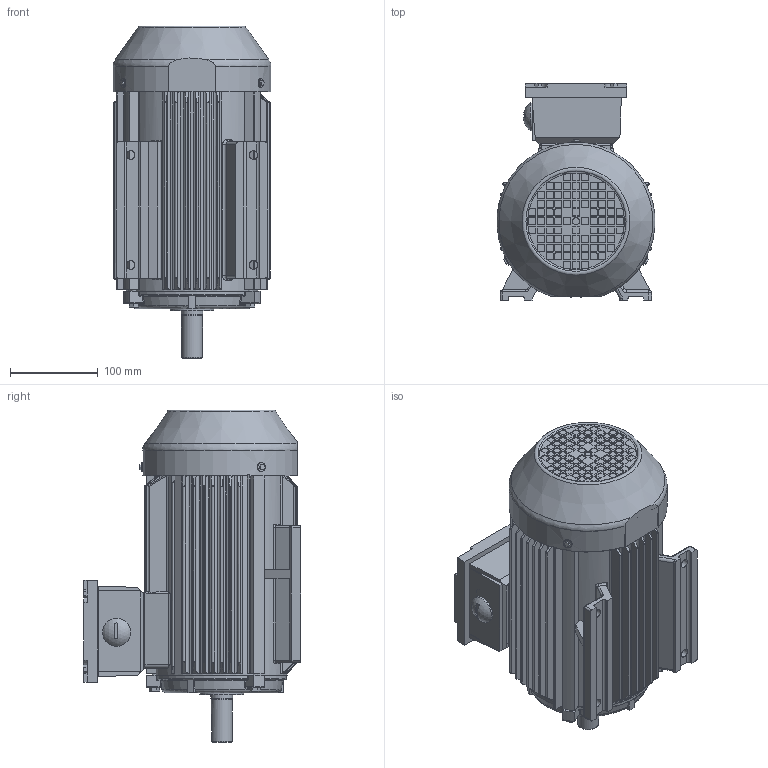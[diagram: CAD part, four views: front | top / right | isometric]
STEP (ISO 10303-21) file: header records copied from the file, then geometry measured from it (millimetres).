
FILE_DESCRIPTION(/* description */ (''),/* implementation_level */ '2;1');
FILE_NAME(/* name */ 'C:/Users/luigi_zhang/Desktop/temp/New folder/TE3-90Lú¿GXú⌐B3╔╧.step',/* time_stamp */ '2020-06-22T09:01:39+10:00',/* author */ (''),/* organization */ (''),/* preprocessor_version */ 'ST-DEVELOPER v18.1',/* originating_system */ 'Autodesk Translation Framework v9.3.0.1241',/* authorisation */ '');
FILE_SCHEMA (('AUTOMOTIVE_DESIGN { 1 0 10303 214 3 1 1 }'));
Length unit declared in the file: millimetre
Products named in the file (1): (Unsaved)
Bounding box: 179.69 x 247.5 x 378 mm (x, y, z)
Volume: 3184593.6 mm3; surface area: 716886.6 mm2
Topology: 6 solids, 7 shells, 1475 faces, 3856 edges, 2517 vertices
Faces by surface type: plane 758, cylinder 570, bspline 81, torus 38, cone 15, sphere 13
Full cylindrical faces by diameter (mm): 5 x2, 6.8 x1, 8 x1, 10 x10, 15 x2, 22.2 x1, 22.44 x1, 23.488 x1, 24 x1, 24.2 x1, 25 x2, 27.05 x1, 30 x3, 30.44 x2, 32 x1, 40 x2, 45 x1, 50 x1, 52 x1, 63 x1, 97.29 x1, 133 x1, 138 x1
Entity records: 53109 total; most frequent: CARTESIAN_POINT 16685, ORIENTED_EDGE 7696, DIRECTION 7441, EDGE_CURVE 3848, AXIS2_PLACEMENT_3D 2568, VERTEX_POINT 2517, LINE 2305, VECTOR 2305
